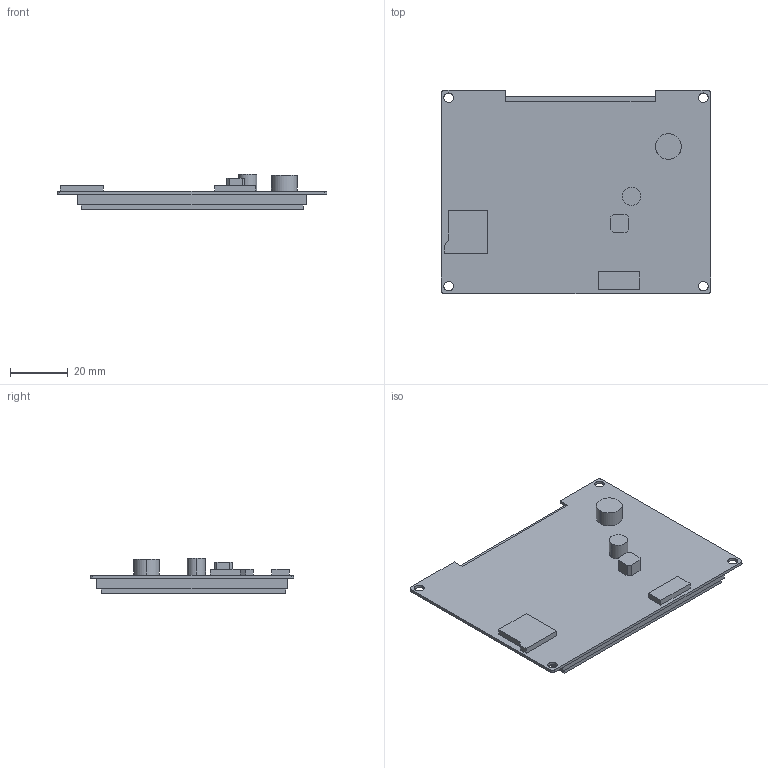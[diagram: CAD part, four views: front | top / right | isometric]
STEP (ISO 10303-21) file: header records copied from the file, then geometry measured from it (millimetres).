
FILE_DESCRIPTION((''),'2;1');
FILE_NAME('3D-DMG32240C035-03WTC','2022-07-06T',('Administrator'),(''),'PRO/ENGINEER BY PARAMETRIC TECHNOLOGY CORPORATION, 2011310','PRO/ENGINEER BY PARAMETRIC TECHNOLOGY CORPORATION, 2011310','');
FILE_SCHEMA(('CONFIG_CONTROL_DESIGN','SHAPE_APPEARANCE_LAYERS_GROUPS'));
Products named in the file (1): 3D-DMG32240C035-03WTC
Bounding box: 92.96 x 70.1 x 12.18 mm (x, y, z)
Volume: 33371.6 mm3; surface area: 23464.8 mm2
Topology: 1 solids, 2 shells, 67 faces, 6870 edges, 11416 vertices
Faces by surface type: plane 51, cylinder 16
Entity records: 57823 total; most frequent: DIRECTION 9132, CARTESIAN_POINT 7050, CURVE_STYLE 6702, PRESENTATION_STYLE_ASSIGNMENT 6702, STYLED_ITEM 6702, TRIMMED_CURVE 6701, VECTOR 4744, LINE 4744
